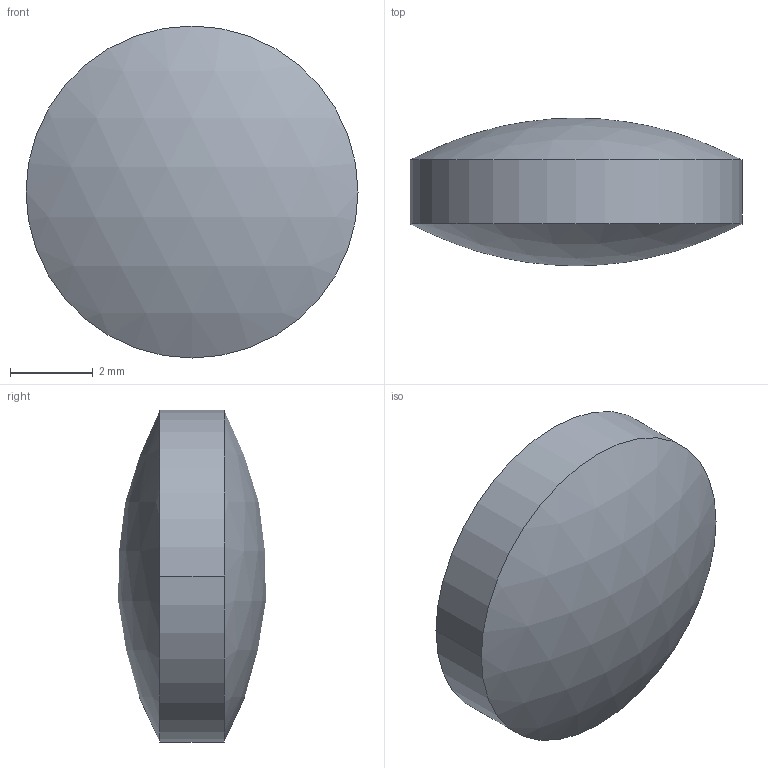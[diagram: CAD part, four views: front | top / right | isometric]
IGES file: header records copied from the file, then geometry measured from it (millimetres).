
Global section: file name: No Iges File Name specified; native system: AutoDesk Inventor R12.0; preprocessor: AutoDesk Inventor Iges Exporter R12.0; author: No Author specified; organization: No Organization specified; date: 20090513.112155; units: millimetre
Bounding box: 8 x 3.56 x 8 mm (x, y, z)
Volume: 130.4 mm3; surface area: 146 mm2
Topology: 1 solids, 1 shells, 4 faces, 6 edges, 4 vertices
Faces by surface type: cylinder 2, sphere 2
